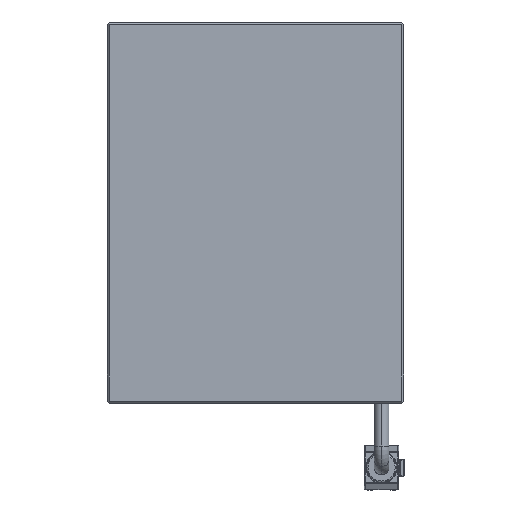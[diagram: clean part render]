
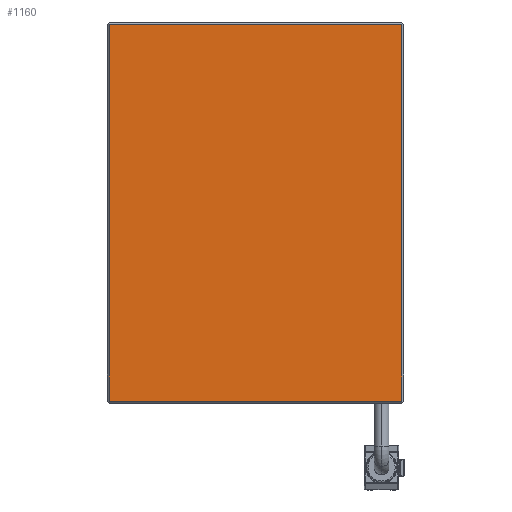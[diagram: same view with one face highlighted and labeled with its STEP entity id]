
A CAD part, top view. The second image highlights one B-rep face of the part: STEP entity #1160.
In plain terms, the highlighted planar face has unit normal (0, 0, 1).
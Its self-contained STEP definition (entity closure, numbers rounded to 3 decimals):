
#219=DIRECTION('',(0.,1.,0.));
#220=VECTOR('',#219,89.);
#221=CARTESIAN_POINT('',(-1.5,0.5,4.));
#222=LINE('',#221,#220);
#223=DIRECTION('',(1.,0.,0.));
#224=VECTOR('',#223,69.);
#225=CARTESIAN_POINT('',(-1.5,89.5,4.));
#226=LINE('',#225,#224);
#227=DIRECTION('',(0.,1.,0.));
#228=VECTOR('',#227,89.);
#229=CARTESIAN_POINT('',(67.5,0.5,4.));
#230=LINE('',#229,#228);
#231=DIRECTION('',(-1.,0.,0.));
#232=VECTOR('',#231,69.);
#233=CARTESIAN_POINT('',(67.5,0.5,4.));
#234=LINE('',#233,#232);
#751=CARTESIAN_POINT('',(-1.5,0.5,4.));
#752=CARTESIAN_POINT('',(-1.5,89.5,4.));
#753=VERTEX_POINT('',#751);
#754=VERTEX_POINT('',#752);
#757=CARTESIAN_POINT('',(67.5,0.5,4.));
#758=VERTEX_POINT('',#757);
#765=CARTESIAN_POINT('',(67.5,89.5,4.));
#766=VERTEX_POINT('',#765);
#1146=CARTESIAN_POINT('',(68.,0.,4.));
#1147=DIRECTION('',(0.,0.,1.));
#1148=DIRECTION('',(-1.,0.,0.));
#1149=AXIS2_PLACEMENT_3D('',#1146,#1147,#1148);
#1150=PLANE('',#1149);
#1152=ORIENTED_EDGE('',*,*,#1151,.T.);
#1154=ORIENTED_EDGE('',*,*,#1153,.T.);
#1156=ORIENTED_EDGE('',*,*,#1155,.F.);
#1157=ORIENTED_EDGE('',*,*,#1133,.T.);
#1158=EDGE_LOOP('',(#1152,#1154,#1156,#1157));
#1159=FACE_OUTER_BOUND('',#1158,.F.);
#1160=ADVANCED_FACE('',(#1159),#1150,.T.);
#1133=EDGE_CURVE('',#758,#753,#234,.T.);
#1151=EDGE_CURVE('',#753,#754,#222,.T.);
#1153=EDGE_CURVE('',#754,#766,#226,.T.);
#1155=EDGE_CURVE('',#758,#766,#230,.T.);
